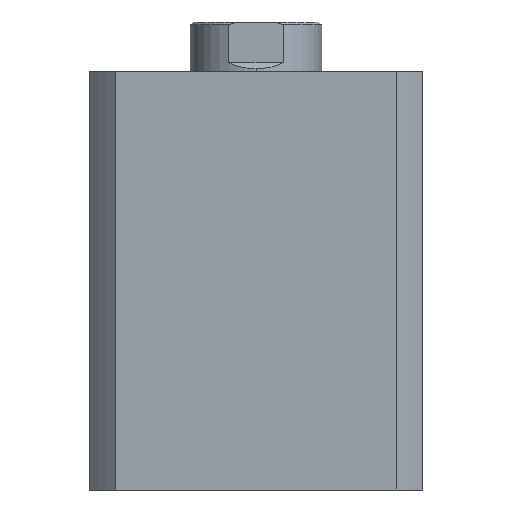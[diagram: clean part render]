
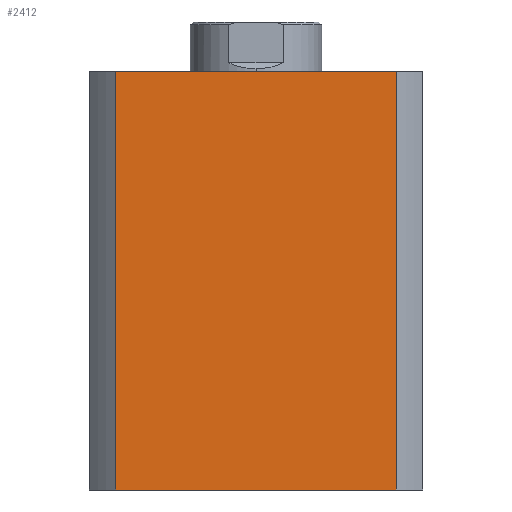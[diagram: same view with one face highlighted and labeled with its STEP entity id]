
A CAD part, left-side view. The second image highlights one B-rep face of the part: STEP entity #2412.
In plain terms, the highlighted planar face has unit normal (-1, 0, 0).
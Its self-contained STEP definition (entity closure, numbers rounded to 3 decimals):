
#225 = EDGE_LOOP ( 'NONE', ( #227, #2962, #2963, #2079 ) ) ;
#227 = ORIENTED_EDGE ( 'NONE', *, *, #954, .T. ) ;
#248 = LINE ( 'NONE', #3311, #251 ) ;
#251 = VECTOR ( 'NONE', #3310, 1000. ) ;
#252 = LINE ( 'NONE', #3320, #254 ) ;
#253 = LINE ( 'NONE', #3302, #256 ) ;
#254 = VECTOR ( 'NONE', #3319, 1000. ) ;
#256 = VECTOR ( 'NONE', #3301, 1000. ) ;
#853 = VERTEX_POINT ( 'NONE', #3648 ) ;
#954 = EDGE_CURVE ( 'NONE', #4742, #853, #4850, .T. ) ;
#986 = EDGE_CURVE ( 'NONE', #4720, #4742, #248, .T. ) ;
#988 = EDGE_CURVE ( 'NONE', #4669, #853, #252, .T. ) ;
#989 = EDGE_CURVE ( 'NONE', #4720, #4669, #253, .T. ) ;
#1312 = AXIS2_PLACEMENT_3D ( 'NONE', #4182, #4167, #4165 ) ;
#1646 = CARTESIAN_POINT ( 'NONE',  ( -57., -47.971, 143. ) ) ;
#1660 = CARTESIAN_POINT ( 'NONE',  ( -57., 47.971, 143. ) ) ;
#2079 = ORIENTED_EDGE ( 'NONE', *, *, #986, .T. ) ;
#2204 = FACE_OUTER_BOUND ( 'NONE', #225, .T. ) ;
#2412 = ADVANCED_FACE ( 'NONE', ( #2204 ), #4169, .F. ) ;
#2962 = ORIENTED_EDGE ( 'NONE', *, *, #988, .F. ) ;
#2963 = ORIENTED_EDGE ( 'NONE', *, *, #989, .F. ) ;
#3301 = DIRECTION ( 'NONE',  ( 0., -1., 0. ) ) ;
#3302 = CARTESIAN_POINT ( 'NONE',  ( -57., 0., 143. ) ) ;
#3310 = DIRECTION ( 'NONE',  ( 0., 0., -1. ) ) ;
#3311 = CARTESIAN_POINT ( 'NONE',  ( -57., 47.971, 143. ) ) ;
#3319 = DIRECTION ( 'NONE',  ( 0., 0., -1. ) ) ;
#3320 = CARTESIAN_POINT ( 'NONE',  ( -57., -47.971, 143. ) ) ;
#3513 = CARTESIAN_POINT ( 'NONE',  ( -57., 0., 0. ) ) ;
#3516 = DIRECTION ( 'NONE',  ( 0., -1., 0. ) ) ;
#3648 = CARTESIAN_POINT ( 'NONE',  ( -57., -47.971, 0. ) ) ;
#3775 = CARTESIAN_POINT ( 'NONE',  ( -57., 47.971, 0. ) ) ;
#4165 = DIRECTION ( 'NONE',  ( 0., 0., -1. ) ) ;
#4167 = DIRECTION ( 'NONE',  ( 1., 0., 0. ) ) ;
#4169 = PLANE ( 'NONE',  #1312 ) ;
#4182 = CARTESIAN_POINT ( 'NONE',  ( -57., 0., 143. ) ) ;
#4669 = VERTEX_POINT ( 'NONE', #1646 ) ;
#4720 = VERTEX_POINT ( 'NONE', #1660 ) ;
#4742 = VERTEX_POINT ( 'NONE', #3775 ) ;
#4850 = LINE ( 'NONE', #3513, #4854 ) ;
#4854 = VECTOR ( 'NONE', #3516, 1000. ) ;
